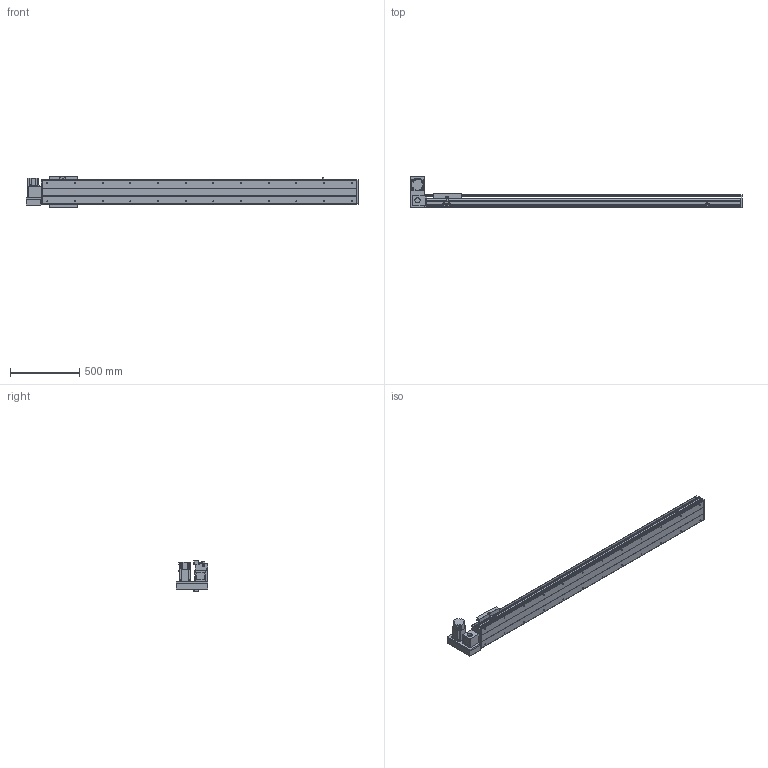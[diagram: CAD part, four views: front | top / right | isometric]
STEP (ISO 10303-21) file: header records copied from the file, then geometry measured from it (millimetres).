
FILE_DESCRIPTION(/* description */ ('STEP AP214'),/* implementation_level */ '2;1');
FILE_NAME(/* name */ 'PBS200-P40-S1900-LU-T75-C1-N(0)',/* time_stamp */ '2022-06-11T09:01:24+02:00',/* author */ ('License CC BY-ND 4.0'),/* organization */ ('CADENAS'),/* preprocessor_version */ 'ST-DEVELOPER v18.102',/* originating_system */ 'PARTsolutions',/* authorisation */ ' ');
FILE_SCHEMA (('AUTOMOTIVE_DESIGN {1 0 10303 214 3 1 1}'));
Length unit declared in the file: millimetre
Products named in the file (7): PBS200-P40-S1900-LU-T75-C1-N(0); PBS200_sensor; PBS200_plant; PBS200_sliser; T75-p1; PBS200T-LU_motors; PBS200-S1900()_body
Assembly tree (8 placements, depth 2):
  PBS200-P40-S1900-LU-T75-C1-N(0)
    PBS200_sensor  x3
    PBS200_plant
    PBS200_sliser
    T75-p1
    PBS200T-LU_motors
    PBS200-S1900()_body
Bounding box: 2400 x 231 x 221 mm (x, y, z)
Volume: 16857653.3 mm3; surface area: 2705404.2 mm2
Topology: 8 solids, 8 shells, 944 faces, 2414 edges, 1572 vertices
Faces by surface type: plane 582, cylinder 306, cone 56
Full cylindrical faces by diameter (mm): 2.459 x6, 3.242 x4, 4.5 x6, 4.917 x4, 5 x6, 6 x7, 6.6 x8, 6.647 x28, 8 x6, 10 x4, 12 x8, 38 x2, 40 x1, 70 x1
Entity records: 25061 total; most frequent: DIRECTION 4423, CARTESIAN_POINT 4264, ORIENTED_EDGE 4030, EDGE_CURVE 2015, AXIS2_PLACEMENT_3D 1555, VERTEX_POINT 1396, LINE 1313, VECTOR 1313
